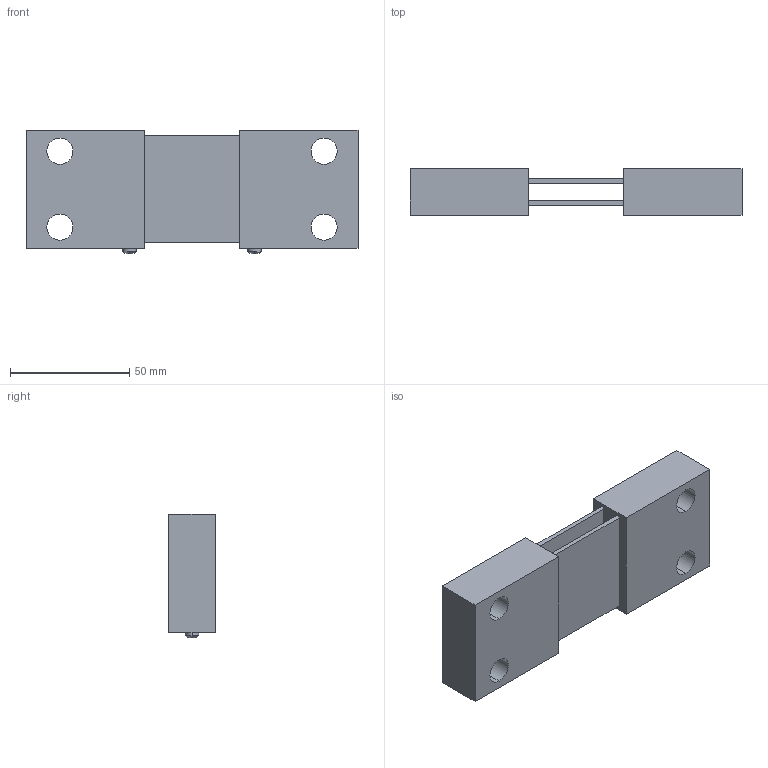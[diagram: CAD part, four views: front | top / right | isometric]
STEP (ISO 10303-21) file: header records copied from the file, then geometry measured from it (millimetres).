
FILE_DESCRIPTION((''),'2;1');
FILE_NAME('RTCS0500_50MV_ASM','2022-10-14T14:49:05',('Administrator'),(''),'CREO PARAMETRIC BY PTC INC, 2020053','CREO PARAMETRIC BY PTC INC, 2020053','');
FILE_SCHEMA(('CONFIG_CONTROL_DESIGN'));
Length unit declared in the file: millimetre
Products named in the file (6): CROSS_RECESSED_PAN_HEAD_SCREWS_; 500A_50MV_0001; 500A_50MV000; 500A_50MV_00; RTCS0500_50MV_1_ASM; RTCS0500_50MV_ASM
Assembly tree (7 placements, depth 3):
  RTCS0500_50MV_ASM
    RTCS0500_50MV_1_ASM
      CROSS_RECESSED_PAN_HEAD_SCREWS_  x2
      500A_50MV_0001
      500A_50MV000  x2
      500A_50MV_00
Bounding box: 139 x 19.5 x 51.87 mm (x, y, z)
Volume: 95497.3 mm3; surface area: 30088.8 mm2
Topology: 6 solids, 6 shells, 344 faces, 934 edges, 622 vertices
Faces by surface type: plane 181, extrusion 111, cylinder 44, sphere 4, cone 4
Entity records: 10438 total; most frequent: CARTESIAN_POINT 2685, ORIENTED_EDGE 1704, DIRECTION 1265, EDGE_CURVE 852, VECTOR 635, VERTEX_POINT 570, LINE 524, B_SPLINE_CURVE_WITH_KNOTS 345
